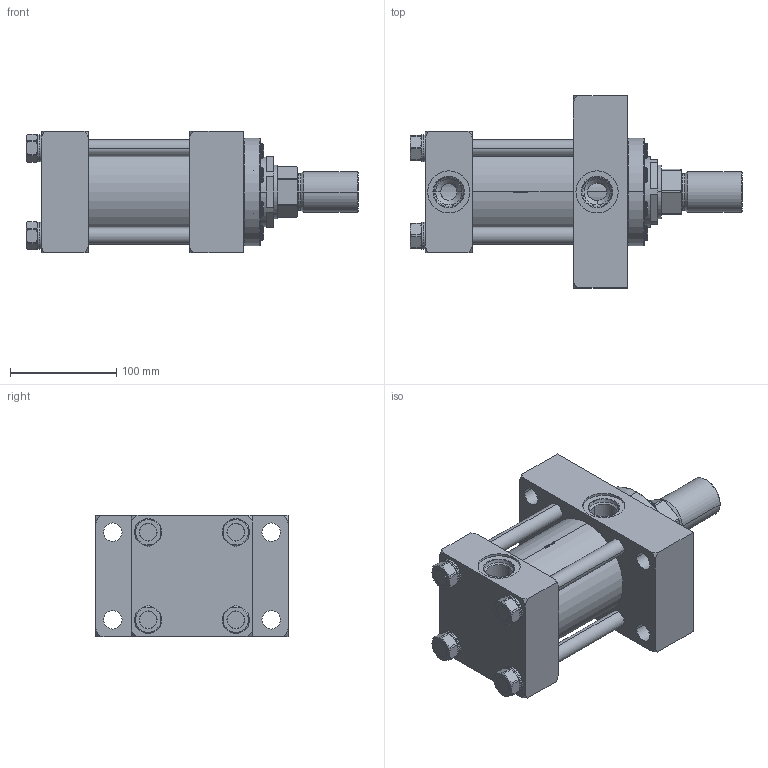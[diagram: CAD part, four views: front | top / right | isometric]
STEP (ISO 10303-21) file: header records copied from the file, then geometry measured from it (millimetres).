
FILE_DESCRIPTION (( 'STEP AP214' ), '1' );
FILE_NAME ('3.25JJ2HHNAT124A2.000.step', '2026-03-26T21:19:26', ( '' ), ( '' ), 'SwSTEP 2.0', 'SolidWorks 2023', '' );
FILE_SCHEMA (( 'AUTOMOTIVE_DESIGN' ));
Length unit declared in the file: inch
Products named in the file (1): 3.25JJ2HHNAT124A2.000
Bounding box: 312.74 x 180.97 x 114.3 mm (x, y, z)
Volume: 2327051 mm3; surface area: 392724 mm2
Topology: 43 solids, 43 shells, 1876 faces, 4967 edges, 3188 vertices
Faces by surface type: plane 830, cylinder 757, cone 229, bspline 52, torus 8
Entity records: 86586 total; most frequent: CARTESIAN_POINT 16352, ORIENTED_EDGE 9854, DIRECTION 9179, EDGE_CURVE 4927, AXIS2_PLACEMENT_3D 3543, VERTEX_POINT 3188, VECTOR 2093, LINE 2093
